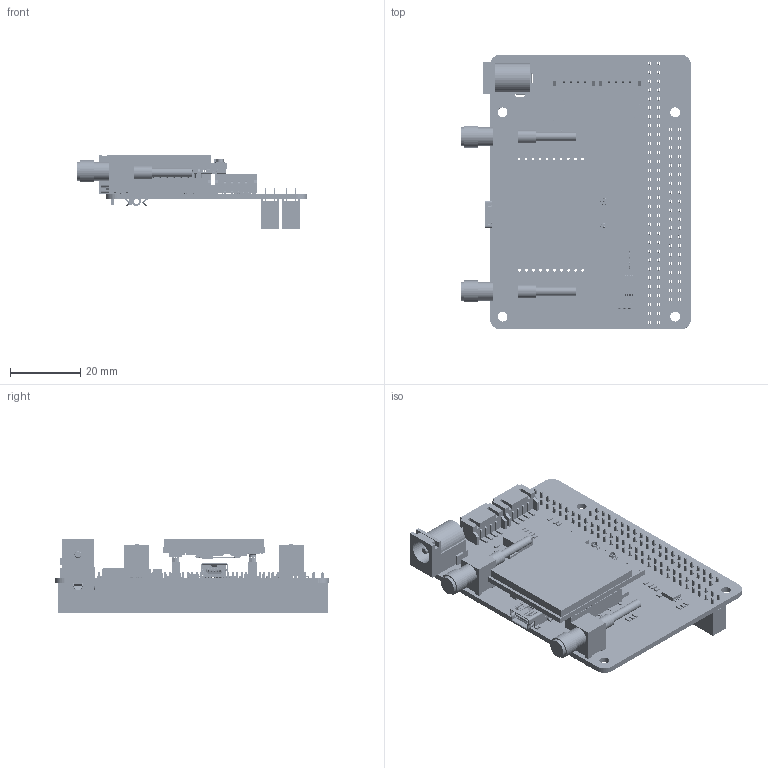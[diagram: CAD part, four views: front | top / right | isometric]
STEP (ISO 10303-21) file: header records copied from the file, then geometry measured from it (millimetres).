
FILE_DESCRIPTION(('Open CASCADE Model'),'2;1');
FILE_NAME('Open CASCADE Shape Model','2017-07-28T13:17:03',('Author'),( 'Open CASCADE'),'Open CASCADE STEP processor 6.5','Open CASCADE 6.5' ,'Unknown');
FILE_SCHEMA(('AUTOMOTIVE_DESIGN { 1 0 10303 214 1 1 1 1 }'));
Length unit declared in the file: millimetre
Products named in the file (130): PCB; Board; R34; RES0603; R33; R32; R31; R8; R6; J11; _____C302LFBN-RC; U1; 634401248; Extruded; R30; R29; R25; R24; R21; R20; R9; R7; R5; L1; 634396768; D2; 634397664; 634397536; C12; C11; C10; RES0805; C9; C3; C2; 634401504; 634401888; C1; J101; 634399584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
Assembly tree (227 placements, depth 4):
  PCB
    Board
    R34
      RES0603
    R33
      RES0603
    R32
      RES0603
    R31
      RES0603
    R8
      RES0603
    R6
      RES0603
    J11
      _____C302LFBN-RC
    U1
      634401248
        Extruded
    R30
      RES0603
    R29
      RES0603
    R25
      RES0603
    R24
      RES0603
    R21
      RES0603
    R20
      RES0603
    R9
      RES0603
    R7
      RES0603
    R5
      RES0603
    L1
      634396768
        Extruded
    D2
      634397664
        Extruded
      634397536
        Extruded
    C12
      RES0603
    C11
      RES0603
    C10
      RES0805
    C9
      RES0603
    C3
      RES0603
    C2
      634401504
        Extruded
      634401888  x2
        Extruded
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Bounding box: 65.35 x 78.05 x 21.09 mm (x, y, z)
Volume: 18995 mm3; surface area: 33971.5 mm2
Topology: 373 solids, 376 shells, 10131 faces, 27136 edges, 17935 vertices
Faces by surface type: plane 6886, cylinder 1915, bspline 1310, cone 20
Full cylindrical faces by diameter (mm): 0.8 x20, 0.9 x2, 1.016 x100, 1.651 x8, 2.413 x2, 2.794 x4, 3.683 x2, 5.283 x2, 6.248 x2
Entity records: 586258 total; most frequent: CARTESIAN_POINT 144944, DIRECTION 73071, LINE 48740, VECTOR 48740, ORIENTED_EDGE 46116, PCURVE 46115, DEFINITIONAL_REPRESENTATION 46115, EDGE_CURVE 23068
